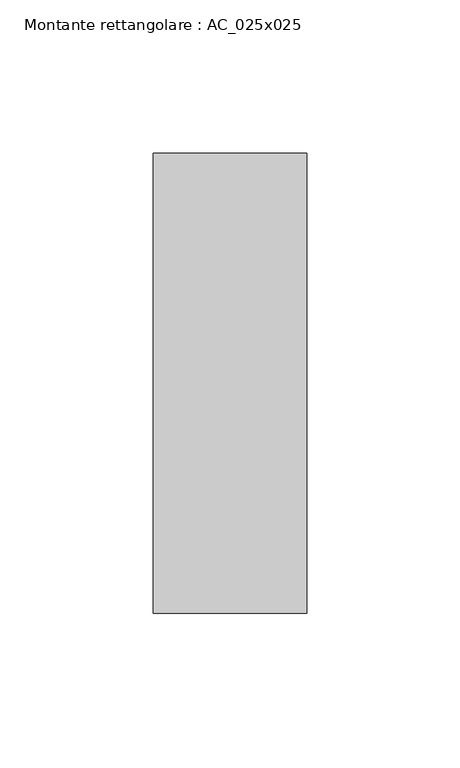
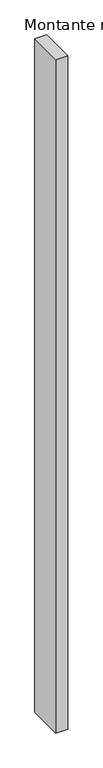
"""IFC4 building model written with IfcOpenShell, lengths in millimetres: member geometry, Montante rettangolare : AC_025x025."""

from ifc_helpers import new_model, si_unit, frame, origin, place, context, project, spatial, polyline, outline, extrude, source, transform, mapped, element, save


def montante_rettangolare_ac_025x025_b97b00cb(model_context):
    return source(origin(), model_context, "Body", "SweptSolid", [
        extrude(outline(polyline([(0.0, 75.0), (0.0, -75.0), (-50.0, -75.0), (-50.0, 75.0), (0.0, 75.0)])), frame((0.0, 0.0, -2962.0), z_axis=(0.0, 0.0, 1.0), x_axis=(1.0, 0.0, 0.0)), (0.0, 0.0, 1.0), 2962.0),
    ])


if __name__ == "__main__":
    model = new_model("IFC4")
    model_context = context("Model", 3, world=origin())
    ifc_project = project(units=[si_unit("LENGTHUNIT", "METRE", prefix="MILLI")], contexts=[model_context])
    site = spatial("IfcSite", under=ifc_project)
    building = spatial("IfcBuilding", under=site)
    placement = place(None, origin())
    montante_rettangolare_ac_025x025_shape = montante_rettangolare_ac_025x025_b97b00cb(model_context)
    element("IfcMember", 1, ObjectType="Montante rettangolare : AC_025x025", at=placement, inside=building, context=model_context, shape_type="MappedRepresentation", body=[
        mapped(montante_rettangolare_ac_025x025_shape, transform((0.0, 0.0, 0.0), x_axis=(1.0, 0.0, 0.0), y_axis=(0.0, 1.0, 0.0), z_axis=(0.0, 0.0, 1.0))),
    ])
    save(model, "model.ifc")
